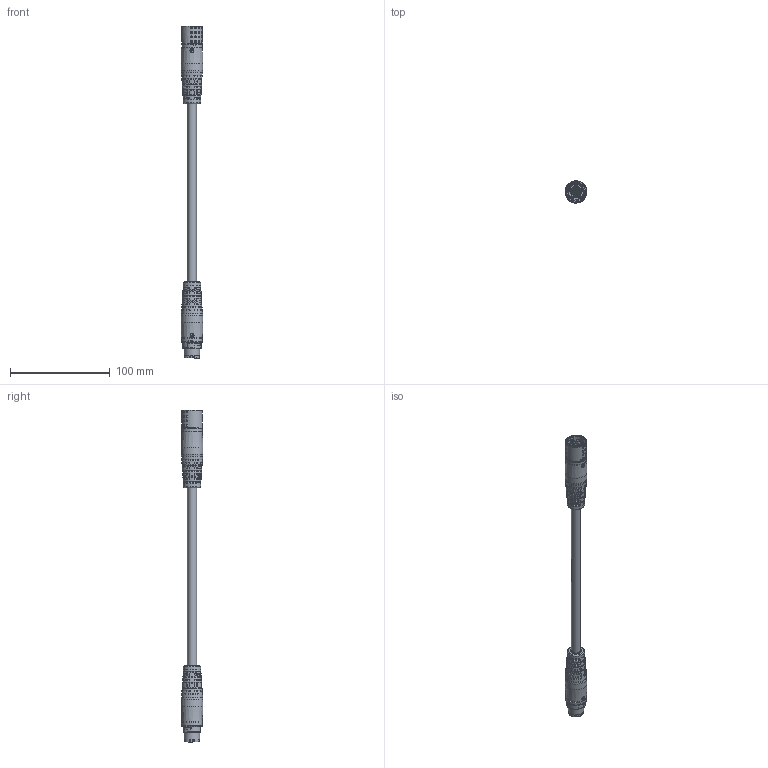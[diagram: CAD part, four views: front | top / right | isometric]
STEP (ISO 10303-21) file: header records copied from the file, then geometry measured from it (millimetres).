
FILE_DESCRIPTION (( 'STEP AP203' ), '1' );
FILE_NAME ('1138007_W-TEC_15K_STI_BU_STEP.STEP', '2023-09-01T07:41:53', ( '' ), ( '' ), 'SwSTEP 2.0', 'SolidWorks 2021', '' );
FILE_SCHEMA (( 'CONFIG_CONTROL_DESIGN' ));
Products named in the file (1): 1138007_W-TEC_15K_STI_BU_STEP
Bounding box: 21.79 x 21.87 x 332.06 mm (x, y, z)
Surface area: 22910.4 mm2 (no closed solid volume)
Topology: 0 solids, 26 shells, 908 faces, 3620 edges, 2537 vertices
Faces by surface type: bspline 367, plane 246, cylinder 222, cone 51, torus 19, sphere 3
Full cylindrical faces by diameter (mm): 1.6 x3, 3.3 x6, 4 x2, 4.2 x3, 4.4 x3, 9.1 x1, 11.1 x4, 15.2 x1, 15.4 x1, 17.384 x2, 18.304 x1, 18.4 x1, 21.24 x2, 21.72 x2
Entity records: 60826 total; most frequent: CARTESIAN_POINT 37052, ORIENTED_EDGE 5217, EDGE_CURVE 3426, DIRECTION 3425, VERTEX_POINT 2485, B_SPLINE_CURVE_WITH_KNOTS 1640, AXIS2_PLACEMENT_3D 1247, EDGE_LOOP 1090
